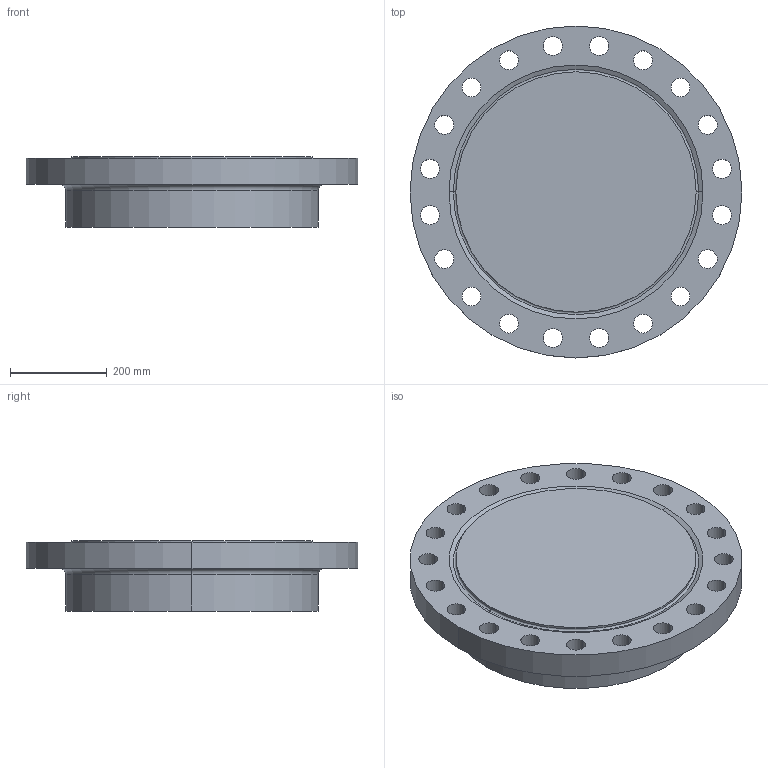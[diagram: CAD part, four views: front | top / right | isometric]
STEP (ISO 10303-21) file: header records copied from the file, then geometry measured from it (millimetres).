
FILE_DESCRIPTION (( 'STEP AP214' ), '1' );
FILE_NAME ('PN40 DN450 Type 21(i) - Type H Face.STEP', '2018-12-29T04:52:04', ( '' ), ( '' ), 'SwSTEP 2.0', 'SolidWorks 2019', '' );
FILE_SCHEMA (( 'AUTOMOTIVE_DESIGN' ));
Length unit declared in the file: millimetre
Products named in the file (1): PN40 DN450 Type 21(i) - Type H Face
Bounding box: 685 x 685 x 145 mm (x, y, z)
Volume: 38005239.6 mm3; surface area: 1085782.7 mm2
Topology: 1 solids, 1 shells, 56 faces, 150 edges, 98 vertices
Faces by surface type: cylinder 46, torus 4, plane 4, cone 2
Entity records: 1922 total; most frequent: DIRECTION 366, CARTESIAN_POINT 305, ORIENTED_EDGE 300, AXIS2_PLACEMENT_3D 159, EDGE_CURVE 150, CIRCLE 102, EDGE_LOOP 98, VERTEX_POINT 98
